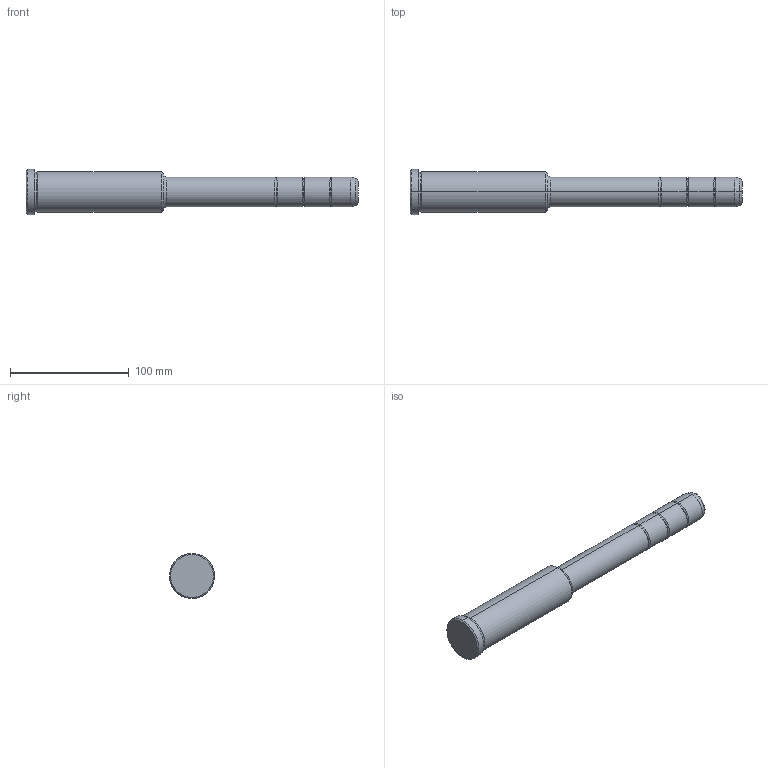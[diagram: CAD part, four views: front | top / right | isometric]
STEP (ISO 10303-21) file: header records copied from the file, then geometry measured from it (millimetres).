
FILE_DESCRIPTION(('CATIA V5 STEP Exchange'),'2;1');
FILE_NAME('C:\Users\Utente\Desktop\IO LAVORO\3D X SITO CF\X SITO\PLASTICA\351\351-25X116X280.stp','2021-09-07T12:22:59+00:00',('none'),('none'),'CATIA Version 5 Release 20 GA (IN-10)','CATIA V5 STEP AP203','none');
FILE_SCHEMA(('CONFIG_CONTROL_DESIGN'));
Length unit declared in the file: millimetre
Products named in the file (1): 351-25X116X280
Bounding box: 280 x 38 x 38 mm (x, y, z)
Volume: 186525.2 mm3; surface area: 27368.4 mm2
Topology: 1 solids, 1 shells, 42 faces, 118 edges, 80 vertices
Faces by surface type: torus 20, cylinder 12, cone 6, plane 4
Entity records: 1472 total; most frequent: CARTESIAN_POINT 353, ORIENTED_EDGE 236, DIRECTION 194, AXIS2_PLACEMENT_3D 135, EDGE_CURVE 118, CIRCLE 92, VERTEX_POINT 80, EDGE_LOOP 44
